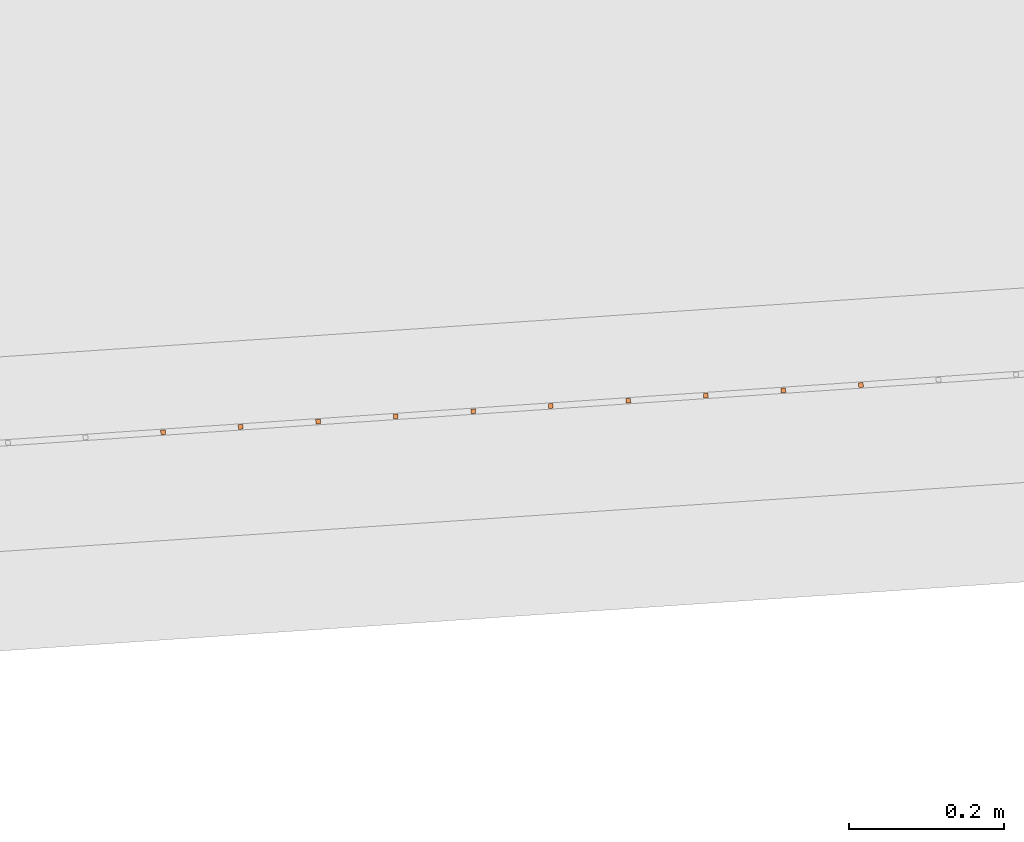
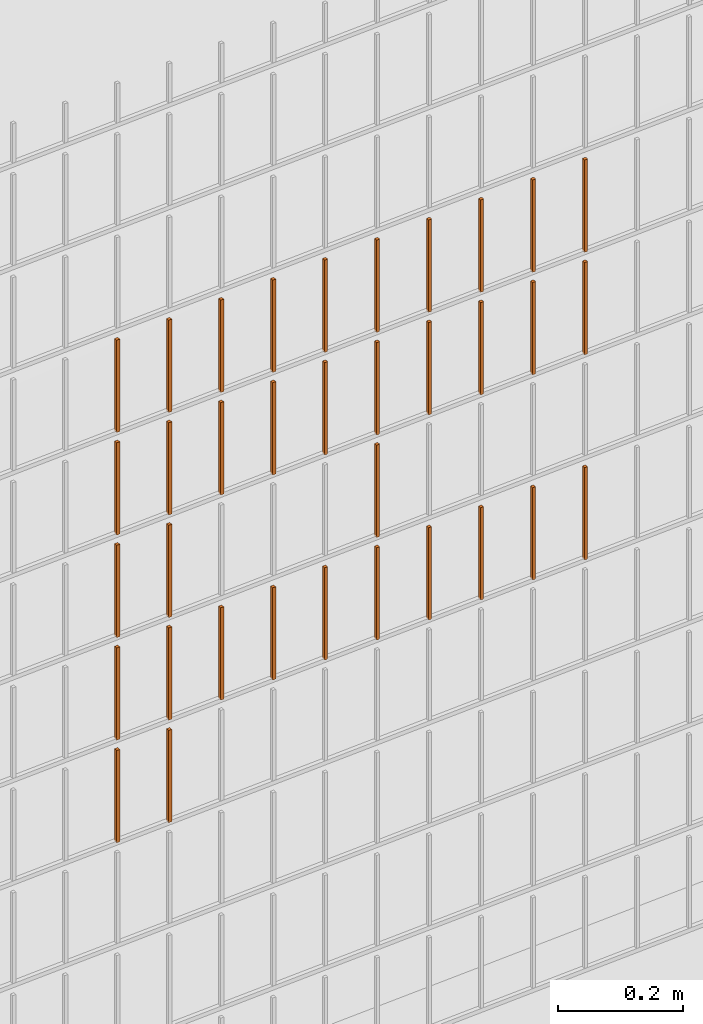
# One storey, part 200 of 1809: 35 proxies, 1 element without a shape of its own.
"""IFC2X3 building model written with IfcOpenShell, lengths in millimetres."""

from ifc_helpers import new_model, entity, si_unit, converted_unit, derived_unit, money_unit, direction, frame, origin_with_axes, place, context, subcontext, project, spatial, faceted_brep, source, transform, mapped, material, type_object, element, aggregate, save


model = new_model("IFC2X3")

# Units and contexts
model_context = context("Model", 3, precision=0.01, world=origin_with_axes(), true_north=direction((0.0, 1.0)))
body_context = subcontext(model_context, "Body", "Model", "MODEL_VIEW")
ifc_project = project(units=[si_unit("LENGTHUNIT", "METRE", prefix="MILLI"), si_unit("AREAUNIT", "SQUARE_METRE"), si_unit("VOLUMEUNIT", "CUBIC_METRE"), converted_unit("PLANEANGLEUNIT", "DEGREE", entity("IfcPlaneAngleMeasure", 0.0174532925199), si_unit("PLANEANGLEUNIT", "RADIAN"), dimensions=[0, 0, 0, 0, 0, 0, 0]), si_unit("SOLIDANGLEUNIT", "STERADIAN"), money_unit("EUR"), converted_unit("TIMEUNIT", "Year", entity("IfcTimeMeasure", 31556926.0), si_unit("TIMEUNIT", "SECOND"), dimensions=[0, 0, 1, 0, 0, 0, 0]), si_unit("MASSUNIT", "GRAM", prefix="KILO"), si_unit("THERMODYNAMICTEMPERATUREUNIT", "DEGREE_CELSIUS"), si_unit("LUMINOUSINTENSITYUNIT", "LUMEN"), si_unit("ENERGYUNIT", "JOULE", prefix="MEGA"), derived_unit("THERMALCONDUCTANCEUNIT", [(si_unit("POWERUNIT", "WATT"), 1), (si_unit("LENGTHUNIT", "METRE"), -1), (si_unit("THERMODYNAMICTEMPERATUREUNIT", "KELVIN"), -1)]), derived_unit("SPECIFICHEATCAPACITYUNIT", [(si_unit("ENERGYUNIT", "JOULE"), 1), (si_unit("MASSUNIT", "GRAM", prefix="KILO"), -1), (si_unit("THERMODYNAMICTEMPERATUREUNIT", "KELVIN"), -1)]), derived_unit("MASSDENSITYUNIT", [(si_unit("MASSUNIT", "GRAM", prefix="KILO"), 1), (si_unit("VOLUMEUNIT", "CUBIC_METRE"), -1)])], contexts=[model_context])

# Site, building, storey
site_placement = place(None, origin_with_axes())
site = spatial("IfcSite", under=ifc_project, at=site_placement, Name="Politse- ja Piirivalveameti ning Päästeameti ühishoone", CompositionType="ELEMENT")
building_placement = place(site_placement, origin_with_axes())
building = spatial("IfcBuilding", under=site, at=building_placement, Name="Politse- ja Piirivalveameti ning Päästeameti ühishoone", CompositionType="ELEMENT")
storey_placement = place(building_placement, origin_with_axes())
storey = spatial("IfcBuildingStorey", under=building, at=storey_placement, Name="Esimene korrus", CompositionType="ELEMENT", Elevation=0.0)

# Proxies
building_element_proxy_type_1 = type_object("IfcBuildingElementProxyType", Name="Railing Type", PredefinedType="NOTDEFINED")
proxy_1_placement = place(storey_placement, frame((89252.001212, -29183.4766571, 203.661247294), z_axis=(0.0, 0.0, 1.0), x_axis=(1.0, 0.0, 0.0)))
proxy_1 = element("IfcBuildingElementProxy", 1, at=proxy_1_placement, inside=storey, type_object=building_element_proxy_type_1, Name="PIIRDEAED")
ifc_material = material(Name="ET-03_Raud")
building_element_proxy_type_2 = type_object("IfcBuildingElementProxyType", Name="IfcBuildingElementProxy", PredefinedType="NOTDEFINED")
shared_shape_1 = source(origin_with_axes(), body_context, "Body", "Brep", [
    faceted_brep([(3.0, 3.0, -0.000752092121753), (-3.0, 3.0, -0.000752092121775), (-3.0, 3.0, 179.99926046), (3.0, 3.0, 179.99926046), (3.0, -3.0, 0.000752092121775), (-3.0, -3.0, 0.000752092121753), (-3.0, -3.0, 180.000764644), (3.0, -3.0, 180.000764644)], [[[0, 1, 2, 3]], [[0, 4, 5, 1]], [[1, 5, 6, 2]], [[3, 2, 6, 7]], [[4, 0, 3, 7]], [[5, 4, 7, 6]]]),
])
proxy_2_placement = place(proxy_1_placement, frame((-66076.1235966, -21760.9675483, 1210.63152875), z_axis=(0.0, 0.0, 1.0), x_axis=(1.0, 0.0, 0.0)))
proxy_2 = element("IfcBuildingElementProxy", 2, at=proxy_2_placement, type_object=building_element_proxy_type_2, material=ifc_material, Name="BALUSTER - 001", context=body_context, shape_type="MappedRepresentation", body=[
    mapped(shared_shape_1, transform((0.0, 0.0, 0.0), x_axis=(-0.0673926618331, 0.997726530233, 0.0), y_axis=(-0.997726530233, -0.0673926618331, 0.0), z_axis=(0.0, 0.0, 1.0))),
])
shared_shape_2 = source(origin_with_axes(), body_context, "Body", "Brep", [
    faceted_brep([(3.0, 3.0, -0.000752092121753), (-3.0, 3.0, -0.000752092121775), (-3.0, 3.0, 179.99926046), (3.0, 3.0, 179.99926046), (3.0, -3.0, 0.000752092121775), (-3.0, -3.0, 0.000752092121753), (-3.0, -3.0, 180.000764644), (3.0, -3.0, 180.000764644)], [[[0, 1, 2, 3]], [[0, 4, 5, 1]], [[1, 5, 6, 2]], [[3, 2, 6, 7]], [[4, 0, 3, 7]], [[5, 4, 7, 6]]]),
])
proxy_3_placement = place(proxy_1_placement, frame((-66076.1235966, -21760.9675483, 1410.63152875), z_axis=(0.0, 0.0, 1.0), x_axis=(1.0, 0.0, 0.0)))
proxy_3 = element("IfcBuildingElementProxy", 3, at=proxy_3_placement, type_object=building_element_proxy_type_2, material=ifc_material, Name="BALUSTER - 001", context=body_context, shape_type="MappedRepresentation", body=[
    mapped(shared_shape_2, transform((0.0, 0.0, 0.0), x_axis=(-0.0673926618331, 0.997726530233, 0.0), y_axis=(-0.997726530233, -0.0673926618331, 0.0), z_axis=(0.0, 0.0, 1.0))),
])
shared_shape_3 = source(origin_with_axes(), body_context, "Body", "Brep", [
    faceted_brep([(3.0, 3.0, -0.000752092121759), (-3.0, 3.0, -0.000752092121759), (-3.0, 3.0, 179.99926046), (3.0, 3.0, 179.99926046), (3.0, -3.0, 0.000752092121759), (-3.0, -3.0, 0.000752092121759), (-3.0, -3.0, 180.000764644), (3.0, -3.0, 180.000764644)], [[[0, 1, 2, 3]], [[0, 4, 5, 1]], [[1, 5, 6, 2]], [[3, 2, 6, 7]], [[4, 0, 3, 7]], [[5, 4, 7, 6]]]),
])
proxy_4_placement = place(proxy_1_placement, frame((-65976.3509436, -21754.2282821, 610.65659849), z_axis=(0.0, 0.0, 1.0), x_axis=(1.0, 0.0, 0.0)))
proxy_4 = element("IfcBuildingElementProxy", 4, at=proxy_4_placement, type_object=building_element_proxy_type_2, material=ifc_material, Name="BALUSTER - 001", context=body_context, shape_type="MappedRepresentation", body=[
    mapped(shared_shape_3, transform((0.0, 0.0, 0.0), x_axis=(-0.0673926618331, 0.997726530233, 0.0), y_axis=(-0.997726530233, -0.0673926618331, 0.0), z_axis=(0.0, 0.0, 1.0))),
])
proxy_5_placement = place(proxy_1_placement, frame((-65976.3509436, -21754.2282821, 810.65659849), z_axis=(0.0, 0.0, 1.0), x_axis=(1.0, 0.0, 0.0)))
proxy_5 = element("IfcBuildingElementProxy", 5, at=proxy_5_placement, type_object=building_element_proxy_type_2, material=ifc_material, Name="BALUSTER - 001", context=body_context, shape_type="MappedRepresentation", body=[
    mapped(shared_shape_3, transform((0.0, 0.0, 0.0), x_axis=(-0.0673926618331, 0.997726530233, 0.0), y_axis=(-0.997726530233, -0.0673926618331, 0.0), z_axis=(0.0, 0.0, 1.0))),
])
shared_shape_4 = source(origin_with_axes(), body_context, "Body", "Brep", [
    faceted_brep([(3.0, 3.0, -0.000752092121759), (-3.0, 3.0, -0.000752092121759), (-3.0, 3.0, 179.99926046), (3.0, 3.0, 179.99926046), (3.0, -3.0, 0.000752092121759), (-3.0, -3.0, 0.000752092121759), (-3.0, -3.0, 180.000764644), (3.0, -3.0, 180.000764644)], [[[0, 1, 2, 3]], [[0, 4, 5, 1]], [[1, 5, 6, 2]], [[3, 2, 6, 7]], [[4, 0, 3, 7]], [[5, 4, 7, 6]]]),
])
proxy_6_placement = place(proxy_1_placement, frame((-65277.9423724, -21707.0534188, 810.832086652), z_axis=(0.0, 0.0, 1.0), x_axis=(1.0, 0.0, 0.0)))
proxy_6 = element("IfcBuildingElementProxy", 6, at=proxy_6_placement, type_object=building_element_proxy_type_2, material=ifc_material, Name="BALUSTER - 001", context=body_context, shape_type="MappedRepresentation", body=[
    mapped(shared_shape_4, transform((0.0, 0.0, 0.0), x_axis=(-0.0673926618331, 0.997726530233, 0.0), y_axis=(-0.997726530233, -0.0673926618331, 0.0), z_axis=(0.0, 0.0, 1.0))),
])
shared_shape_5 = source(origin_with_axes(), body_context, "Body", "Brep", [
    faceted_brep([(3.0, 3.0, -0.000752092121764), (-3.0, 3.0, -0.000752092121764), (-3.0, 3.0, 179.99926046), (3.0, 3.0, 179.99926046), (3.0, -3.0, 0.000752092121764), (-3.0, -3.0, 0.000752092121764), (-3.0, -3.0, 180.000764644), (3.0, -3.0, 180.000764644)], [[[0, 1, 2, 3]], [[0, 4, 5, 1]], [[1, 5, 6, 2]], [[3, 2, 6, 7]], [[4, 0, 3, 7]], [[5, 4, 7, 6]]]),
])
proxy_7_placement = place(proxy_1_placement, frame((-65776.8056375, -21740.7497497, 810.706737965), z_axis=(0.0, 0.0, 1.0), x_axis=(1.0, 0.0, 0.0)))
proxy_7 = element("IfcBuildingElementProxy", 7, at=proxy_7_placement, type_object=building_element_proxy_type_2, material=ifc_material, Name="BALUSTER - 001", context=body_context, shape_type="MappedRepresentation", body=[
    mapped(shared_shape_5, transform((0.0, 0.0, 0.0), x_axis=(-0.0673926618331, 0.997726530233, 0.0), y_axis=(-0.997726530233, -0.0673926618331, 0.0), z_axis=(0.0, 0.0, 1.0))),
])
shared_shape_6 = source(origin_with_axes(), body_context, "Body", "Brep", [
    faceted_brep([(3.0, 3.0, -0.000752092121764), (-3.0, 3.0, -0.000752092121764), (-3.0, 3.0, 179.99926046), (3.0, 3.0, 179.99926046), (3.0, -3.0, 0.000752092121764), (-3.0, -3.0, 0.000752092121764), (-3.0, -3.0, 180.000764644), (3.0, -3.0, 180.000764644)], [[[0, 1, 2, 3]], [[0, 4, 5, 1]], [[1, 5, 6, 2]], [[3, 2, 6, 7]], [[4, 0, 3, 7]], [[5, 4, 7, 6]]]),
])
proxy_8_placement = place(proxy_1_placement, frame((-65677.0329845, -21734.0104835, 810.731807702), z_axis=(0.0, 0.0, 1.0), x_axis=(1.0, 0.0, 0.0)))
proxy_8 = element("IfcBuildingElementProxy", 8, at=proxy_8_placement, type_object=building_element_proxy_type_2, material=ifc_material, Name="BALUSTER - 001", context=body_context, shape_type="MappedRepresentation", body=[
    mapped(shared_shape_6, transform((0.0, 0.0, 0.0), x_axis=(-0.0673926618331, 0.997726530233, 0.0), y_axis=(-0.997726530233, -0.0673926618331, 0.0), z_axis=(0.0, 0.0, 1.0))),
])
shared_shape_7 = source(origin_with_axes(), body_context, "Body", "Brep", [
    faceted_brep([(3.0, 3.0, -0.000752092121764), (-3.0, 3.0, -0.000752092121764), (-3.0, 3.0, 179.99926046), (3.0, 3.0, 179.99926046), (3.0, -3.0, 0.000752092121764), (-3.0, -3.0, 0.000752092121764), (-3.0, -3.0, 180.000764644), (3.0, -3.0, 180.000764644)], [[[0, 1, 2, 3]], [[0, 4, 5, 1]], [[1, 5, 6, 2]], [[3, 2, 6, 7]], [[4, 0, 3, 7]], [[5, 4, 7, 6]]]),
])
proxy_9_placement = place(proxy_1_placement, frame((-65178.1697194, -21700.3141526, 1210.85715639), z_axis=(0.0, 0.0, 1.0), x_axis=(1.0, 0.0, 0.0)))
proxy_9 = element("IfcBuildingElementProxy", 9, at=proxy_9_placement, type_object=building_element_proxy_type_2, material=ifc_material, Name="BALUSTER - 001", context=body_context, shape_type="MappedRepresentation", body=[
    mapped(shared_shape_7, transform((0.0, 0.0, 0.0), x_axis=(-0.0673926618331, 0.997726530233, 0.0), y_axis=(-0.997726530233, -0.0673926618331, 0.0), z_axis=(0.0, 0.0, 1.0))),
])
proxy_10_placement = place(proxy_1_placement, frame((-65776.8056375, -21740.7497497, 1210.70673797), z_axis=(0.0, 0.0, 1.0), x_axis=(1.0, 0.0, 0.0)))
proxy_10 = element("IfcBuildingElementProxy", 10, at=proxy_10_placement, type_object=building_element_proxy_type_2, material=ifc_material, Name="BALUSTER - 001", context=body_context, shape_type="MappedRepresentation", body=[
    mapped(shared_shape_7, transform((0.0, 0.0, 0.0), x_axis=(-0.0673926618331, 0.997726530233, 0.0), y_axis=(-0.997726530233, -0.0673926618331, 0.0), z_axis=(0.0, 0.0, 1.0))),
])
shared_shape_8 = source(origin_with_axes(), body_context, "Body", "Brep", [
    faceted_brep([(3.0, 3.0, -0.000752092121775), (-3.0, 3.0, -0.000752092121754), (-3.0, 3.0, 179.99926046), (3.0, 3.0, 179.99926046), (3.0, -3.0, 0.000752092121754), (-3.0, -3.0, 0.000752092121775), (-3.0, -3.0, 180.000764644), (3.0, -3.0, 180.000764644)], [[[0, 1, 2, 3]], [[0, 4, 5, 1]], [[1, 5, 6, 2]], [[3, 2, 6, 7]], [[4, 0, 3, 7]], [[5, 4, 7, 6]]]),
])
proxy_11_placement = place(proxy_1_placement, frame((-65876.5782906, -21747.4890159, 1210.68166823), z_axis=(0.0, 0.0, 1.0), x_axis=(1.0, 0.0, 0.0)))
proxy_11 = element("IfcBuildingElementProxy", 11, at=proxy_11_placement, type_object=building_element_proxy_type_2, material=ifc_material, Name="BALUSTER - 001", context=body_context, shape_type="MappedRepresentation", body=[
    mapped(shared_shape_8, transform((0.0, 0.0, 0.0), x_axis=(-0.0673926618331, 0.997726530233, 0.0), y_axis=(-0.997726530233, -0.0673926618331, 0.0), z_axis=(0.0, 0.0, 1.0))),
])
shared_shape_9 = source(origin_with_axes(), body_context, "Body", "Brep", [
    faceted_brep([(3.0, 3.0, -0.000752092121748), (-3.0, 3.0, -0.00075209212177), (-3.0, 3.0, 179.99926046), (3.0, 3.0, 179.99926046), (3.0, -3.0, 0.00075209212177), (-3.0, -3.0, 0.000752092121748), (-3.0, -3.0, 180.000764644), (3.0, -3.0, 180.000764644)], [[[0, 1, 2, 3]], [[0, 4, 5, 1]], [[1, 5, 6, 2]], [[3, 2, 6, 7]], [[4, 0, 3, 7]], [[5, 4, 7, 6]]]),
])
proxy_12_placement = place(proxy_1_placement, frame((-65577.2603315, -21727.2712173, 810.75687744), z_axis=(0.0, 0.0, 1.0), x_axis=(1.0, 0.0, 0.0)))
proxy_12 = element("IfcBuildingElementProxy", 12, at=proxy_12_placement, type_object=building_element_proxy_type_2, material=ifc_material, Name="BALUSTER - 001", context=body_context, shape_type="MappedRepresentation", body=[
    mapped(shared_shape_9, transform((0.0, 0.0, 0.0), x_axis=(-0.0673926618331, 0.997726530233, 0.0), y_axis=(-0.997726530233, -0.0673926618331, 0.0), z_axis=(0.0, 0.0, 1.0))),
])
proxy_13_placement = place(proxy_1_placement, frame((-65577.2603315, -21727.2712173, 1210.75687744), z_axis=(0.0, 0.0, 1.0), x_axis=(1.0, 0.0, 0.0)))
proxy_13 = element("IfcBuildingElementProxy", 13, at=proxy_13_placement, type_object=building_element_proxy_type_2, material=ifc_material, Name="BALUSTER - 001", context=body_context, shape_type="MappedRepresentation", body=[
    mapped(shared_shape_9, transform((0.0, 0.0, 0.0), x_axis=(-0.0673926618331, 0.997726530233, 0.0), y_axis=(-0.997726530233, -0.0673926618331, 0.0), z_axis=(0.0, 0.0, 1.0))),
])
proxy_14_placement = place(proxy_1_placement, frame((-65976.3509436, -21754.2282821, 1210.65659849), z_axis=(0.0, 0.0, 1.0), x_axis=(1.0, 0.0, 0.0)))
proxy_14 = element("IfcBuildingElementProxy", 14, at=proxy_14_placement, type_object=building_element_proxy_type_2, material=ifc_material, Name="BALUSTER - 001", context=body_context, shape_type="MappedRepresentation", body=[
    mapped(shared_shape_9, transform((0.0, 0.0, 0.0), x_axis=(-0.0673926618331, 0.997726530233, 0.0), y_axis=(-0.997726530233, -0.0673926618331, 0.0), z_axis=(0.0, 0.0, 1.0))),
])
shared_shape_10 = source(origin_with_axes(), body_context, "Body", "Brep", [
    faceted_brep([(3.0, 3.0, -0.000752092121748), (-3.0, 3.0, -0.00075209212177), (-3.0, 3.0, 179.99926046), (3.0, 3.0, 179.99926046), (3.0, -3.0, 0.00075209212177), (-3.0, -3.0, 0.000752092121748), (-3.0, -3.0, 180.000764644), (3.0, -3.0, 180.000764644)], [[[0, 1, 2, 3]], [[0, 4, 5, 1]], [[1, 5, 6, 2]], [[3, 2, 6, 7]], [[4, 0, 3, 7]], [[5, 4, 7, 6]]]),
])
proxy_15_placement = place(proxy_1_placement, frame((-66076.1235966, -21760.9675483, 610.631528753), z_axis=(0.0, 0.0, 1.0), x_axis=(1.0, 0.0, 0.0)))
proxy_15 = element("IfcBuildingElementProxy", 15, at=proxy_15_placement, type_object=building_element_proxy_type_2, material=ifc_material, Name="BALUSTER - 001", context=body_context, shape_type="MappedRepresentation", body=[
    mapped(shared_shape_10, transform((0.0, 0.0, 0.0), x_axis=(-0.0673926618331, 0.997726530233, 0.0), y_axis=(-0.997726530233, -0.0673926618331, 0.0), z_axis=(0.0, 0.0, 1.0))),
])
proxy_16_placement = place(proxy_1_placement, frame((-65477.4876785, -21720.5319512, 810.781947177), z_axis=(0.0, 0.0, 1.0), x_axis=(1.0, 0.0, 0.0)))
proxy_16 = element("IfcBuildingElementProxy", 16, at=proxy_16_placement, type_object=building_element_proxy_type_2, material=ifc_material, Name="BALUSTER - 001", context=body_context, shape_type="MappedRepresentation", body=[
    mapped(shared_shape_10, transform((0.0, 0.0, 0.0), x_axis=(-0.0673926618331, 0.997726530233, 0.0), y_axis=(-0.997726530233, -0.0673926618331, 0.0), z_axis=(0.0, 0.0, 1.0))),
])
proxy_17_placement = place(proxy_1_placement, frame((-66076.1235966, -21760.9675483, 810.631528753), z_axis=(0.0, 0.0, 1.0), x_axis=(1.0, 0.0, 0.0)))
proxy_17 = element("IfcBuildingElementProxy", 17, at=proxy_17_placement, type_object=building_element_proxy_type_2, material=ifc_material, Name="BALUSTER - 001", context=body_context, shape_type="MappedRepresentation", body=[
    mapped(shared_shape_10, transform((0.0, 0.0, 0.0), x_axis=(-0.0673926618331, 0.997726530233, 0.0), y_axis=(-0.997726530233, -0.0673926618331, 0.0), z_axis=(0.0, 0.0, 1.0))),
])
proxy_18_placement = place(proxy_1_placement, frame((-65377.7150255, -21713.792685, 1210.80701691), z_axis=(0.0, 0.0, 1.0), x_axis=(1.0, 0.0, 0.0)))
proxy_18 = element("IfcBuildingElementProxy", 18, at=proxy_18_placement, type_object=building_element_proxy_type_2, material=ifc_material, Name="BALUSTER - 001", context=body_context, shape_type="MappedRepresentation", body=[
    mapped(shared_shape_10, transform((0.0, 0.0, 0.0), x_axis=(-0.0673926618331, 0.997726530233, 0.0), y_axis=(-0.997726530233, -0.0673926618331, 0.0), z_axis=(0.0, 0.0, 1.0))),
])
shared_shape_11 = source(origin_with_axes(), body_context, "Body", "Brep", [
    faceted_brep([(3.0, 3.0, -0.000752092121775), (-3.0, 3.0, -0.000752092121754), (-3.0, 3.0, 179.99926046), (3.0, 3.0, 179.99926046), (3.0, -3.0, 0.000752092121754), (-3.0, -3.0, 0.000752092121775), (-3.0, -3.0, 180.000764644), (3.0, -3.0, 180.000764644)], [[[0, 1, 2, 3]], [[0, 4, 5, 1]], [[1, 5, 6, 2]], [[3, 2, 6, 7]], [[4, 0, 3, 7]], [[5, 4, 7, 6]]]),
])
proxy_19_placement = place(proxy_1_placement, frame((-65876.5782906, -21747.4890159, 810.681668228), z_axis=(0.0, 0.0, 1.0), x_axis=(1.0, 0.0, 0.0)))
proxy_19 = element("IfcBuildingElementProxy", 19, at=proxy_19_placement, type_object=building_element_proxy_type_2, material=ifc_material, Name="BALUSTER - 001", context=body_context, shape_type="MappedRepresentation", body=[
    mapped(shared_shape_11, transform((0.0, 0.0, 0.0), x_axis=(-0.0673926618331, 0.997726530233, 0.0), y_axis=(-0.997726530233, -0.0673926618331, 0.0), z_axis=(0.0, 0.0, 1.0))),
])
shared_shape_12 = source(origin_with_axes(), body_context, "Body", "Brep", [
    faceted_brep([(3.0, 3.0, -0.000752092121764), (-3.0, 3.0, -0.000752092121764), (-3.0, 3.0, 179.99926046), (3.0, 3.0, 179.99926046), (3.0, -3.0, 0.000752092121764), (-3.0, -3.0, 0.000752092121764), (-3.0, -3.0, 180.000764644), (3.0, -3.0, 180.000764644)], [[[0, 1, 2, 3]], [[0, 4, 5, 1]], [[1, 5, 6, 2]], [[3, 2, 6, 7]], [[4, 0, 3, 7]], [[5, 4, 7, 6]]]),
])
proxy_20_placement = place(proxy_1_placement, frame((-65178.1697194, -21700.3141526, 1410.85715639), z_axis=(0.0, 0.0, 1.0), x_axis=(1.0, 0.0, 0.0)))
proxy_20 = element("IfcBuildingElementProxy", 20, at=proxy_20_placement, type_object=building_element_proxy_type_2, material=ifc_material, Name="BALUSTER - 001", context=body_context, shape_type="MappedRepresentation", body=[
    mapped(shared_shape_12, transform((0.0, 0.0, 0.0), x_axis=(-0.0673926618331, 0.997726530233, 0.0), y_axis=(-0.997726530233, -0.0673926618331, 0.0), z_axis=(0.0, 0.0, 1.0))),
])
proxy_21_placement = place(proxy_1_placement, frame((-65776.8056375, -21740.7497497, 1410.70673797), z_axis=(0.0, 0.0, 1.0), x_axis=(1.0, 0.0, 0.0)))
proxy_21 = element("IfcBuildingElementProxy", 21, at=proxy_21_placement, type_object=building_element_proxy_type_2, material=ifc_material, Name="BALUSTER - 001", context=body_context, shape_type="MappedRepresentation", body=[
    mapped(shared_shape_12, transform((0.0, 0.0, 0.0), x_axis=(-0.0673926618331, 0.997726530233, 0.0), y_axis=(-0.997726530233, -0.0673926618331, 0.0), z_axis=(0.0, 0.0, 1.0))),
])
shared_shape_13 = source(origin_with_axes(), body_context, "Body", "Brep", [
    faceted_brep([(3.0, 3.0, -0.000752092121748), (-3.0, 3.0, -0.00075209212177), (-3.0, 3.0, 179.99926046), (3.0, 3.0, 179.99926046), (3.0, -3.0, 0.00075209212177), (-3.0, -3.0, 0.000752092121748), (-3.0, -3.0, 180.000764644), (3.0, -3.0, 180.000764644)], [[[0, 1, 2, 3]], [[0, 4, 5, 1]], [[1, 5, 6, 2]], [[3, 2, 6, 7]], [[4, 0, 3, 7]], [[5, 4, 7, 6]]]),
])
proxy_22_placement = place(proxy_1_placement, frame((-65377.7150255, -21713.792685, 1410.80701691), z_axis=(0.0, 0.0, 1.0), x_axis=(1.0, 0.0, 0.0)))
proxy_22 = element("IfcBuildingElementProxy", 22, at=proxy_22_placement, type_object=building_element_proxy_type_2, material=ifc_material, Name="BALUSTER - 001", context=body_context, shape_type="MappedRepresentation", body=[
    mapped(shared_shape_13, transform((0.0, 0.0, 0.0), x_axis=(-0.0673926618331, 0.997726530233, 0.0), y_axis=(-0.997726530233, -0.0673926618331, 0.0), z_axis=(0.0, 0.0, 1.0))),
])
shared_shape_14 = source(origin_with_axes(), body_context, "Body", "Brep", [
    faceted_brep([(3.0, 3.0, -0.000752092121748), (-3.0, 3.0, -0.00075209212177), (-3.0, 3.0, 179.99926046), (3.0, 3.0, 179.99926046), (3.0, -3.0, 0.00075209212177), (-3.0, -3.0, 0.000752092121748), (-3.0, -3.0, 180.000764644), (3.0, -3.0, 180.000764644)], [[[0, 1, 2, 3]], [[0, 4, 5, 1]], [[1, 5, 6, 2]], [[3, 2, 6, 7]], [[4, 0, 3, 7]], [[5, 4, 7, 6]]]),
])
proxy_23_placement = place(proxy_1_placement, frame((-65577.2603315, -21727.2712173, 1410.75687744), z_axis=(0.0, 0.0, 1.0), x_axis=(1.0, 0.0, 0.0)))
proxy_23 = element("IfcBuildingElementProxy", 23, at=proxy_23_placement, type_object=building_element_proxy_type_2, material=ifc_material, Name="BALUSTER - 001", context=body_context, shape_type="MappedRepresentation", body=[
    mapped(shared_shape_14, transform((0.0, 0.0, 0.0), x_axis=(-0.0673926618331, 0.997726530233, 0.0), y_axis=(-0.997726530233, -0.0673926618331, 0.0), z_axis=(0.0, 0.0, 1.0))),
])
proxy_24_placement = place(proxy_1_placement, frame((-65976.3509436, -21754.2282821, 1410.65659849), z_axis=(0.0, 0.0, 1.0), x_axis=(1.0, 0.0, 0.0)))
proxy_24 = element("IfcBuildingElementProxy", 24, at=proxy_24_placement, type_object=building_element_proxy_type_2, material=ifc_material, Name="BALUSTER - 001", context=body_context, shape_type="MappedRepresentation", body=[
    mapped(shared_shape_14, transform((0.0, 0.0, 0.0), x_axis=(-0.0673926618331, 0.997726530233, 0.0), y_axis=(-0.997726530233, -0.0673926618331, 0.0), z_axis=(0.0, 0.0, 1.0))),
])
shared_shape_15 = source(origin_with_axes(), body_context, "Body", "Brep", [
    faceted_brep([(3.0, 3.0, -0.000752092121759), (-3.0, 3.0, -0.000752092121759), (-3.0, 3.0, 179.99926046), (3.0, 3.0, 179.99926046), (3.0, -3.0, 0.000752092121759), (-3.0, -3.0, 0.000752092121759), (-3.0, -3.0, 180.000764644), (3.0, -3.0, 180.000764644)], [[[0, 1, 2, 3]], [[0, 4, 5, 1]], [[1, 5, 6, 2]], [[3, 2, 6, 7]], [[4, 0, 3, 7]], [[5, 4, 7, 6]]]),
])
proxy_25_placement = place(proxy_1_placement, frame((-65377.7150255, -21713.792685, 810.807016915), z_axis=(0.0, 0.0, 1.0), x_axis=(1.0, 0.0, 0.0)))
proxy_25 = element("IfcBuildingElementProxy", 25, at=proxy_25_placement, type_object=building_element_proxy_type_2, material=ifc_material, Name="BALUSTER - 001", context=body_context, shape_type="MappedRepresentation", body=[
    mapped(shared_shape_15, transform((0.0, 0.0, 0.0), x_axis=(-0.0673926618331, 0.997726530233, 0.0), y_axis=(-0.997726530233, -0.0673926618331, 0.0), z_axis=(0.0, 0.0, 1.0))),
])
shared_shape_16 = source(origin_with_axes(), body_context, "Body", "Brep", [
    faceted_brep([(3.0, 3.0, -0.000752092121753), (-3.0, 3.0, -0.000752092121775), (-3.0, 3.0, 179.99926046), (3.0, 3.0, 179.99926046), (3.0, -3.0, 0.000752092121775), (-3.0, -3.0, 0.000752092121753), (-3.0, -3.0, 180.000764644), (3.0, -3.0, 180.000764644)], [[[0, 1, 2, 3]], [[0, 4, 5, 1]], [[1, 5, 6, 2]], [[3, 2, 6, 7]], [[4, 0, 3, 7]], [[5, 4, 7, 6]]]),
])
proxy_26_placement = place(proxy_1_placement, frame((-65677.0329845, -21734.0104835, 1210.7318077), z_axis=(0.0, 0.0, 1.0), x_axis=(1.0, 0.0, 0.0)))
proxy_26 = element("IfcBuildingElementProxy", 26, at=proxy_26_placement, type_object=building_element_proxy_type_2, material=ifc_material, Name="BALUSTER - 001", context=body_context, shape_type="MappedRepresentation", body=[
    mapped(shared_shape_16, transform((0.0, 0.0, 0.0), x_axis=(-0.0673926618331, 0.997726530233, 0.0), y_axis=(-0.997726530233, -0.0673926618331, 0.0), z_axis=(0.0, 0.0, 1.0))),
])
shared_shape_17 = source(origin_with_axes(), body_context, "Body", "Brep", [
    faceted_brep([(3.0, 3.0, -0.000752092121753), (-3.0, 3.0, -0.000752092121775), (-3.0, 3.0, 179.99926046), (3.0, 3.0, 179.99926046), (3.0, -3.0, 0.000752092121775), (-3.0, -3.0, 0.000752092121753), (-3.0, -3.0, 180.000764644), (3.0, -3.0, 180.000764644)], [[[0, 1, 2, 3]], [[0, 4, 5, 1]], [[1, 5, 6, 2]], [[3, 2, 6, 7]], [[4, 0, 3, 7]], [[5, 4, 7, 6]]]),
])
proxy_27_placement = place(proxy_1_placement, frame((-65178.1697194, -21700.3141526, 810.857156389), z_axis=(0.0, 0.0, 1.0), x_axis=(1.0, 0.0, 0.0)))
proxy_27 = element("IfcBuildingElementProxy", 27, at=proxy_27_placement, type_object=building_element_proxy_type_2, material=ifc_material, Name="BALUSTER - 001", context=body_context, shape_type="MappedRepresentation", body=[
    mapped(shared_shape_17, transform((0.0, 0.0, 0.0), x_axis=(-0.0673926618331, 0.997726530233, 0.0), y_axis=(-0.997726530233, -0.0673926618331, 0.0), z_axis=(0.0, 0.0, 1.0))),
])
shared_shape_18 = source(origin_with_axes(), body_context, "Body", "Brep", [
    faceted_brep([(3.0, 3.0, -0.000752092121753), (-3.0, 3.0, -0.000752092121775), (-3.0, 3.0, 179.99926046), (3.0, 3.0, 179.99926046), (3.0, -3.0, 0.000752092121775), (-3.0, -3.0, 0.000752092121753), (-3.0, -3.0, 180.000764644), (3.0, -3.0, 180.000764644)], [[[0, 1, 2, 3]], [[0, 4, 5, 1]], [[1, 5, 6, 2]], [[3, 2, 6, 7]], [[4, 0, 3, 7]], [[5, 4, 7, 6]]]),
])
proxy_28_placement = place(proxy_1_placement, frame((-65677.0329845, -21734.0104835, 1410.7318077), z_axis=(0.0, 0.0, 1.0), x_axis=(1.0, 0.0, 0.0)))
proxy_28 = element("IfcBuildingElementProxy", 28, at=proxy_28_placement, type_object=building_element_proxy_type_2, material=ifc_material, Name="BALUSTER - 001", context=body_context, shape_type="MappedRepresentation", body=[
    mapped(shared_shape_18, transform((0.0, 0.0, 0.0), x_axis=(-0.0673926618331, 0.997726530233, 0.0), y_axis=(-0.997726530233, -0.0673926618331, 0.0), z_axis=(0.0, 0.0, 1.0))),
])
shared_shape_19 = source(origin_with_axes(), body_context, "Body", "Brep", [
    faceted_brep([(3.0, 3.0, -0.000752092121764), (-3.0, 3.0, -0.000752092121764), (-3.0, 3.0, 179.99926046), (3.0, 3.0, 179.99926046), (3.0, -3.0, 0.000752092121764), (-3.0, -3.0, 0.000752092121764), (-3.0, -3.0, 180.000764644), (3.0, -3.0, 180.000764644)], [[[0, 1, 2, 3]], [[0, 4, 5, 1]], [[1, 5, 6, 2]], [[3, 2, 6, 7]], [[4, 0, 3, 7]], [[5, 4, 7, 6]]]),
])
proxy_29_placement = place(proxy_1_placement, frame((-65277.9423724, -21707.0534188, 1210.83208665), z_axis=(0.0, 0.0, 1.0), x_axis=(1.0, 0.0, 0.0)))
proxy_29 = element("IfcBuildingElementProxy", 29, at=proxy_29_placement, type_object=building_element_proxy_type_2, material=ifc_material, Name="BALUSTER - 001", context=body_context, shape_type="MappedRepresentation", body=[
    mapped(shared_shape_19, transform((0.0, 0.0, 0.0), x_axis=(-0.0673926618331, 0.997726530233, 0.0), y_axis=(-0.997726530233, -0.0673926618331, 0.0), z_axis=(0.0, 0.0, 1.0))),
])
shared_shape_20 = source(origin_with_axes(), body_context, "Body", "Brep", [
    faceted_brep([(3.0, 3.0, -0.000752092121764), (-3.0, 3.0, -0.000752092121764), (-3.0, 3.0, 179.99926046), (3.0, 3.0, 179.99926046), (3.0, -3.0, 0.000752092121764), (-3.0, -3.0, 0.000752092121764), (-3.0, -3.0, 180.000764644), (3.0, -3.0, 180.000764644)], [[[0, 1, 2, 3]], [[0, 4, 5, 1]], [[1, 5, 6, 2]], [[3, 2, 6, 7]], [[4, 0, 3, 7]], [[5, 4, 7, 6]]]),
])
proxy_30_placement = place(proxy_1_placement, frame((-65277.9423724, -21707.0534188, 1410.83208665), z_axis=(0.0, 0.0, 1.0), x_axis=(1.0, 0.0, 0.0)))
proxy_30 = element("IfcBuildingElementProxy", 30, at=proxy_30_placement, type_object=building_element_proxy_type_2, material=ifc_material, Name="BALUSTER - 001", context=body_context, shape_type="MappedRepresentation", body=[
    mapped(shared_shape_20, transform((0.0, 0.0, 0.0), x_axis=(-0.0673926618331, 0.997726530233, 0.0), y_axis=(-0.997726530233, -0.0673926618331, 0.0), z_axis=(0.0, 0.0, 1.0))),
])
shared_shape_21 = source(origin_with_axes(), body_context, "Body", "Brep", [
    faceted_brep([(3.0, 3.0, -0.000752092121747), (-3.0, 3.0, -0.00075209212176), (-3.00000000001, 3.0, 179.99926046), (2.99999999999, 3.0, 179.99926046), (3.0, -3.0, 0.00075209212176), (-3.0, -3.0, 0.000752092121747), (-3.00000000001, -3.0, 180.000764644), (2.99999999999, -3.0, 180.000764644)], [[[0, 1, 2, 3]], [[0, 4, 5, 1]], [[1, 5, 6, 2]], [[3, 2, 6, 7]], [[4, 0, 3, 7]], [[5, 4, 7, 6]]]),
])
proxy_31_placement = place(proxy_1_placement, frame((-65577.2603315, -21727.2712173, 1010.75687744), z_axis=(0.0, 0.0, 1.0), x_axis=(1.0, 0.0, 0.0)))
proxy_31 = element("IfcBuildingElementProxy", 31, at=proxy_31_placement, type_object=building_element_proxy_type_2, material=ifc_material, Name="BALUSTER - 001", context=body_context, shape_type="MappedRepresentation", body=[
    mapped(shared_shape_21, transform((0.0, 0.0, 0.0), x_axis=(-0.0673926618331, 0.997726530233, 0.0), y_axis=(-0.997726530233, -0.0673926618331, 0.0), z_axis=(0.0, 0.0, 1.0))),
])
shared_shape_22 = source(origin_with_axes(), body_context, "Body", "Brep", [
    faceted_brep([(3.0, 3.0, -0.000752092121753), (-3.0, 3.0, -0.000752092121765), (-3.00000000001, 3.0, 179.99926046), (2.99999999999, 3.0, 179.99926046), (3.0, -3.0, 0.000752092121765), (-3.0, -3.0, 0.000752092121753), (-3.00000000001, -3.0, 180.000764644), (2.99999999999, -3.0, 180.000764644)], [[[0, 1, 2, 3]], [[0, 4, 5, 1]], [[1, 5, 6, 2]], [[3, 2, 6, 7]], [[4, 0, 3, 7]], [[5, 4, 7, 6]]]),
])
proxy_32_placement = place(proxy_1_placement, frame((-65976.3509436, -21754.2282821, 1010.65659849), z_axis=(0.0, 0.0, 1.0), x_axis=(1.0, 0.0, 0.0)))
proxy_32 = element("IfcBuildingElementProxy", 32, at=proxy_32_placement, type_object=building_element_proxy_type_2, material=ifc_material, Name="BALUSTER - 001", context=body_context, shape_type="MappedRepresentation", body=[
    mapped(shared_shape_22, transform((0.0, 0.0, 0.0), x_axis=(-0.0673926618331, 0.997726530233, 0.0), y_axis=(-0.997726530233, -0.0673926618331, 0.0), z_axis=(0.0, 0.0, 1.0))),
])
shared_shape_23 = source(origin_with_axes(), body_context, "Body", "Brep", [
    faceted_brep([(3.0, 3.0, -0.000752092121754), (-3.0, 3.0, -0.000752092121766), (-3.00000000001, 3.00000000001, 179.99926046), (2.99999999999, 3.00000000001, 179.99926046), (3.0, -3.0, 0.000752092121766), (-3.0, -3.0, 0.000752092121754), (-3.00000000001, -2.99999999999, 180.000764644), (2.99999999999, -2.99999999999, 180.000764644)], [[[0, 1, 2, 3]], [[0, 4, 5, 1]], [[1, 5, 6, 2]], [[3, 2, 6, 7]], [[4, 0, 3, 7]], [[5, 4, 7, 6]]]),
])
proxy_33_placement = place(proxy_1_placement, frame((-66076.1235966, -21760.9675483, 1010.63152875), z_axis=(0.0, 0.0, 1.0), x_axis=(1.0, 0.0, 0.0)))
proxy_33 = element("IfcBuildingElementProxy", 33, at=proxy_33_placement, type_object=building_element_proxy_type_2, material=ifc_material, Name="BALUSTER - 001", context=body_context, shape_type="MappedRepresentation", body=[
    mapped(shared_shape_23, transform((0.0, 0.0, 0.0), x_axis=(-0.0673926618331, 0.997726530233, 0.0), y_axis=(-0.997726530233, -0.0673926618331, 0.0), z_axis=(0.0, 0.0, 1.0))),
])
shared_shape_24 = source(origin_with_axes(), body_context, "Body", "Brep", [
    faceted_brep([(3.0, 3.0, -0.000752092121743), (-3.0, 3.0, -0.000752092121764), (-3.0, 3.0, 179.99926046), (3.0, 3.0, 179.99926046), (3.0, -3.0, 0.000752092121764), (-3.0, -3.0, 0.000752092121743), (-3.0, -3.0, 180.000764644), (3.0, -3.0, 180.000764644)], [[[0, 1, 2, 3]], [[0, 4, 5, 1]], [[1, 5, 6, 2]], [[3, 2, 6, 7]], [[4, 0, 3, 7]], [[5, 4, 7, 6]]]),
])
proxy_34_placement = place(proxy_1_placement, frame((-65477.4876785, -21720.5319512, 1210.78194718), z_axis=(0.0, 0.0, 1.0), x_axis=(1.0, 0.0, 0.0)))
proxy_34 = element("IfcBuildingElementProxy", 34, at=proxy_34_placement, type_object=building_element_proxy_type_2, material=ifc_material, Name="BALUSTER - 001", context=body_context, shape_type="MappedRepresentation", body=[
    mapped(shared_shape_24, transform((0.0, 0.0, 0.0), x_axis=(-0.0673926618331, 0.997726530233, 0.0), y_axis=(-0.997726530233, -0.0673926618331, 0.0), z_axis=(0.0, 0.0, 1.0))),
])
shared_shape_25 = source(origin_with_axes(), body_context, "Body", "Brep", [
    faceted_brep([(3.0, 3.0, -0.000752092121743), (-3.0, 3.0, -0.000752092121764), (-3.0, 3.0, 179.99926046), (3.0, 3.0, 179.99926046), (3.0, -3.0, 0.000752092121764), (-3.0, -3.0, 0.000752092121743), (-3.0, -3.0, 180.000764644), (3.0, -3.0, 180.000764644)], [[[0, 1, 2, 3]], [[0, 4, 5, 1]], [[1, 5, 6, 2]], [[3, 2, 6, 7]], [[4, 0, 3, 7]], [[5, 4, 7, 6]]]),
])
proxy_35_placement = place(proxy_1_placement, frame((-65477.4876785, -21720.5319512, 1410.78194718), z_axis=(0.0, 0.0, 1.0), x_axis=(1.0, 0.0, 0.0)))
proxy_35 = element("IfcBuildingElementProxy", 35, at=proxy_35_placement, type_object=building_element_proxy_type_2, material=ifc_material, Name="BALUSTER - 001", context=body_context, shape_type="MappedRepresentation", body=[
    mapped(shared_shape_25, transform((0.0, 0.0, 0.0), x_axis=(-0.0673926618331, 0.997726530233, 0.0), y_axis=(-0.997726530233, -0.0673926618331, 0.0), z_axis=(0.0, 0.0, 1.0))),
])
shared_shape_26 = source(origin_with_axes(), body_context, "Body", "Brep", [
    faceted_brep([(3.0, 3.0, -0.000752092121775), (-3.0, 3.0, -0.000752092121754), (-3.0, 3.0, 179.99926046), (3.0, 3.0, 179.99926046), (3.0, -3.0, 0.000752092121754), (-3.0, -3.0, 0.000752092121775), (-3.0, -3.0, 180.000764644), (3.0, -3.0, 180.000764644)], [[[0, 1, 2, 3]], [[0, 4, 5, 1]], [[1, 5, 6, 2]], [[3, 2, 6, 7]], [[4, 0, 3, 7]], [[5, 4, 7, 6]]]),
])
proxy_36_placement = place(proxy_1_placement, frame((-65876.5782906, -21747.4890159, 1410.68166823), z_axis=(0.0, 0.0, 1.0), x_axis=(1.0, 0.0, 0.0)))
proxy_36 = element("IfcBuildingElementProxy", 36, at=proxy_36_placement, type_object=building_element_proxy_type_2, material=ifc_material, Name="BALUSTER - 001", context=body_context, shape_type="MappedRepresentation", body=[
    mapped(shared_shape_26, transform((0.0, 0.0, 0.0), x_axis=(-0.0673926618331, 0.997726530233, 0.0), y_axis=(-0.997726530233, -0.0673926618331, 0.0), z_axis=(0.0, 0.0, 1.0))),
])
aggregate(proxy_1, [proxy_4, proxy_15, proxy_27, proxy_6, proxy_25, proxy_16, proxy_12, proxy_8, proxy_7, proxy_19, proxy_5, proxy_17, proxy_31, proxy_32, proxy_33, proxy_9, proxy_29, proxy_18, proxy_34, proxy_13, proxy_26, proxy_10, proxy_11, proxy_14, proxy_2, proxy_20, proxy_30, proxy_22, proxy_35, proxy_23, proxy_28, proxy_21, proxy_36, proxy_24, proxy_3])

save(model, "model.ifc")
